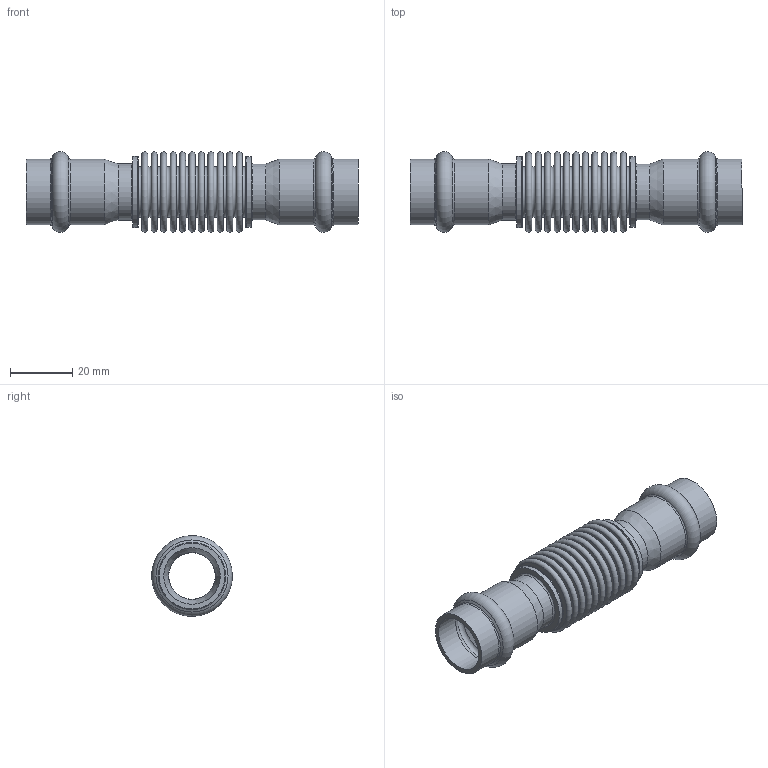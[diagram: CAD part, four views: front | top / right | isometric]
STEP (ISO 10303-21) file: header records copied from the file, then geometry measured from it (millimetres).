
FILE_DESCRIPTION((''),'2;1');
FILE_NAME('G:\Nirosan-Schmiedefeld\Technics\CAD\001 Serie 9.000\018\69872L18H(0).stp','2018-09-11T15:33:37',('herberg'),(''),'Autodesk Inventor 2009','Autodesk Inventor 2009','');
FILE_SCHEMA(('AUTOMOTIVE_DESIGN { 1 0 10303 214 1 1 1 1 }'));
Length unit declared in the file: millimetre
Products named in the file (3): 69872L18H(0); 69HMB18p(0); 69488L18p(0)
Assembly tree (3 placements, depth 2):
  69872L18H(0)
    69HMB18p(0)  x2
    69488L18p(0)
Bounding box: 106.6 x 25.89 x 25.89 mm (x, y, z)
Volume: 9582.7 mm3; surface area: 27744.5 mm2
Topology: 3 solids, 3 shells, 140 faces, 232 edges, 146 vertices
Faces by surface type: plane 54, bspline 36, torus 26, cylinder 16, cone 8
Full cylindrical faces by diameter (mm): 15 x2, 18 x2, 18.15 x4, 21.15 x4, 22.8 x4
Entity records: 4533 total; most frequent: CARTESIAN_POINT 2544, DIRECTION 424, ORIENTED_EDGE 236, EDGE_LOOP 236, AXIS2_PLACEMENT_3D 212, VERTEX_POINT 118, CIRCLE 118, EDGE_CURVE 118
